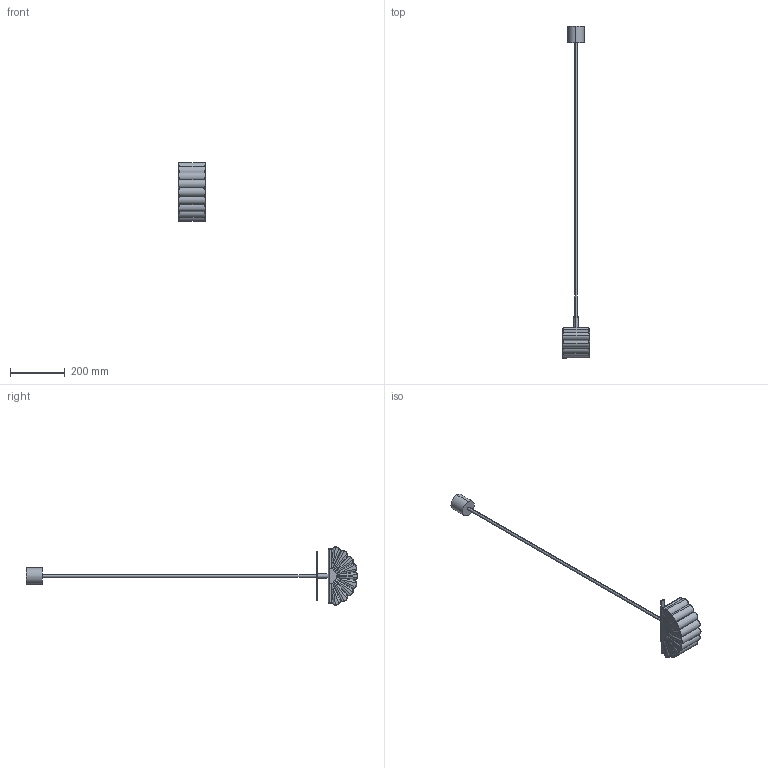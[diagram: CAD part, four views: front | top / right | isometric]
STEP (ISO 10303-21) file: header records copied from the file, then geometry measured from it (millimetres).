
FILE_DESCRIPTION (( 'STEP AP214' ), '1' );
FILE_NAME ('GINA_C1334.STEP', '2024-09-18T07:43:44', ( '' ), ( '' ), 'SwSTEP 2.0', 'SolidWorks 2018', '' );
FILE_SCHEMA (( 'AUTOMOTIVE_DESIGN' ));
Length unit declared in the file: millimetre
Products named in the file (1): GINA_C1334
Bounding box: 100 x 1209.17 x 212.24 mm (x, y, z)
Volume: 2027191.7 mm3; surface area: 153172.4 mm2
Topology: 5 solids, 5 shells, 267 faces, 659 edges, 401 vertices
Faces by surface type: bspline 132, plane 50, cylinder 28, cone 28, torus 22, sphere 7
Entity records: 16261 total; most frequent: CARTESIAN_POINT 8199, ORIENTED_EDGE 1314, DIRECTION 695, EDGE_CURVE 657, VERTEX_POINT 401, B_SPLINE_CURVE_WITH_KNOTS 390, AXIS2_PLACEMENT_3D 307, UNCERTAINTY_MEASURE_WITH_UNIT 274
